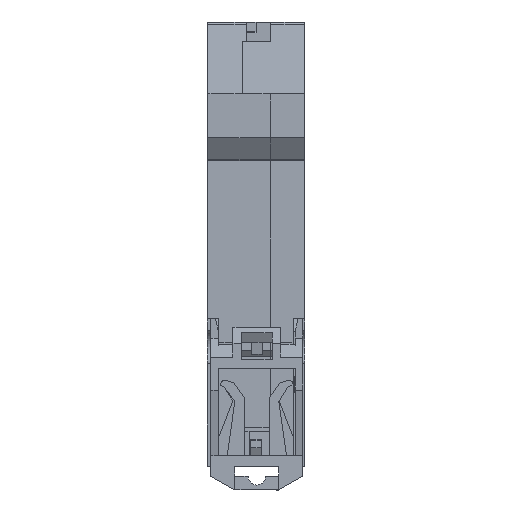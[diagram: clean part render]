
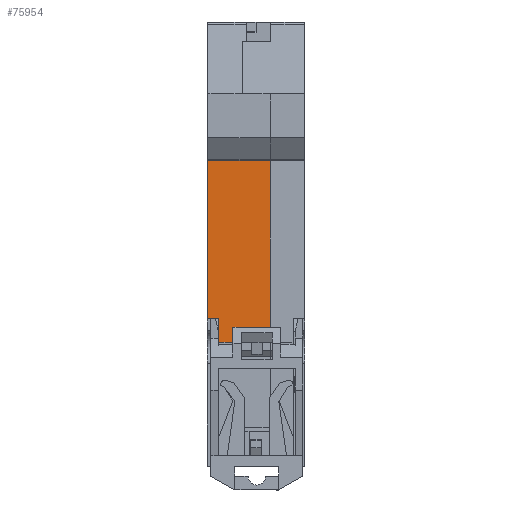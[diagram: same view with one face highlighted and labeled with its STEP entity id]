
A CAD part, left-side view. The second image highlights one B-rep face of the part: STEP entity #75954.
In plain terms, the highlighted planar face has unit normal (-1, 0, 0).
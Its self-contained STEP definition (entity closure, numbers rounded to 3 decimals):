
#4921 = CARTESIAN_POINT ( 'NONE',  ( -2.5, 6.3, 58.1 ) ) ;
#11291 = CARTESIAN_POINT ( 'NONE',  ( -2.5, 38.9, 58.1 ) ) ;
#13891 = DIRECTION ( 'NONE',  ( 0., -1., 0. ) ) ;
#14757 = VERTEX_POINT ( 'NONE', #107225 ) ;
#15075 = AXIS2_PLACEMENT_3D ( 'NONE', #64210, #200532, #97469 ) ;
#16807 = VERTEX_POINT ( 'NONE', #4921 ) ;
#20959 = PLANE ( 'NONE',  #15075 ) ;
#25620 = EDGE_CURVE ( 'NONE', #124958, #14757, #134103, .T. ) ;
#31235 = VECTOR ( 'NONE', #146839, 1000. ) ;
#31796 = LINE ( 'NONE', #11291, #166907 ) ;
#32356 = VECTOR ( 'NONE', #213828, 1000. ) ;
#39693 = CARTESIAN_POINT ( 'NONE',  ( -2.5, 17.8, 26.9 ) ) ;
#42813 = EDGE_CURVE ( 'NONE', #113655, #124958, #65288, .T. ) ;
#47169 = VERTEX_POINT ( 'NONE', #142710 ) ;
#55652 = LINE ( 'NONE', #39693, #74229 ) ;
#56413 = CARTESIAN_POINT ( 'NONE',  ( -2.5, 17.8, 58.1 ) ) ;
#57856 = DIRECTION ( 'NONE',  ( 0., -1., 0. ) ) ;
#61882 = CARTESIAN_POINT ( 'NONE',  ( -2.5, 17.8, 22.6 ) ) ;
#64210 = CARTESIAN_POINT ( 'NONE',  ( -2.5, 17.8, 58.1 ) ) ;
#65288 = LINE ( 'NONE', #169523, #205327 ) ;
#66816 = ORIENTED_EDGE ( 'NONE', *, *, #169264, .T. ) ;
#73802 = VERTEX_POINT ( 'NONE', #93816 ) ;
#74229 = VECTOR ( 'NONE', #57856, 1000. ) ;
#75954 = ADVANCED_FACE ( 'NONE', ( #177733 ), #20959, .F. ) ;
#87846 = LINE ( 'NONE', #195431, #32356 ) ;
#91317 = ORIENTED_EDGE ( 'NONE', *, *, #222852, .T. ) ;
#93816 = CARTESIAN_POINT ( 'NONE',  ( -2.5, 17.8, 58.1 ) ) ;
#94127 = LINE ( 'NONE', #56413, #31235 ) ;
#97469 = DIRECTION ( 'NONE',  ( 0., 0., 1. ) ) ;
#106476 = CARTESIAN_POINT ( 'NONE',  ( -2.5, 15.65, 26.9 ) ) ;
#107225 = CARTESIAN_POINT ( 'NONE',  ( -2.5, 6.3, 22.6 ) ) ;
#111681 = CARTESIAN_POINT ( 'NONE',  ( -2.5, 15.65, 22.6 ) ) ;
#113655 = VERTEX_POINT ( 'NONE', #106476 ) ;
#116906 = DIRECTION ( 'NONE',  ( 0., 0., -1. ) ) ;
#124958 = VERTEX_POINT ( 'NONE', #111681 ) ;
#134103 = LINE ( 'NONE', #61882, #194938 ) ;
#140992 = EDGE_CURVE ( 'NONE', #47169, #113655, #55652, .T. ) ;
#142710 = CARTESIAN_POINT ( 'NONE',  ( -2.5, 17.8, 26.9 ) ) ;
#146839 = DIRECTION ( 'NONE',  ( 0., 0., -1. ) ) ;
#154269 = DIRECTION ( 'NONE',  ( 0., 1., 0. ) ) ;
#157511 = ORIENTED_EDGE ( 'NONE', *, *, #171408, .T. ) ;
#166907 = VECTOR ( 'NONE', #154269, 1000. ) ;
#169264 = EDGE_CURVE ( 'NONE', #73802, #47169, #94127, .T. ) ;
#169523 = CARTESIAN_POINT ( 'NONE',  ( -2.5, 15.65, 58.1 ) ) ;
#170969 = ORIENTED_EDGE ( 'NONE', *, *, #25620, .T. ) ;
#171408 = EDGE_CURVE ( 'NONE', #14757, #16807, #87846, .T. ) ;
#177733 = FACE_OUTER_BOUND ( 'NONE', #182037, .T. ) ;
#182037 = EDGE_LOOP ( 'NONE', ( #226339, #191237, #170969, #157511, #91317, #66816 ) ) ;
#191237 = ORIENTED_EDGE ( 'NONE', *, *, #42813, .T. ) ;
#194938 = VECTOR ( 'NONE', #13891, 1000. ) ;
#195431 = CARTESIAN_POINT ( 'NONE',  ( -2.5, 6.3, 58.1 ) ) ;
#200532 = DIRECTION ( 'NONE',  ( 1., 0., 0. ) ) ;
#205327 = VECTOR ( 'NONE', #116906, 1000. ) ;
#213828 = DIRECTION ( 'NONE',  ( 0., 0., 1. ) ) ;
#222852 = EDGE_CURVE ( 'NONE', #16807, #73802, #31796, .T. ) ;
#226339 = ORIENTED_EDGE ( 'NONE', *, *, #140992, .T. ) ;
